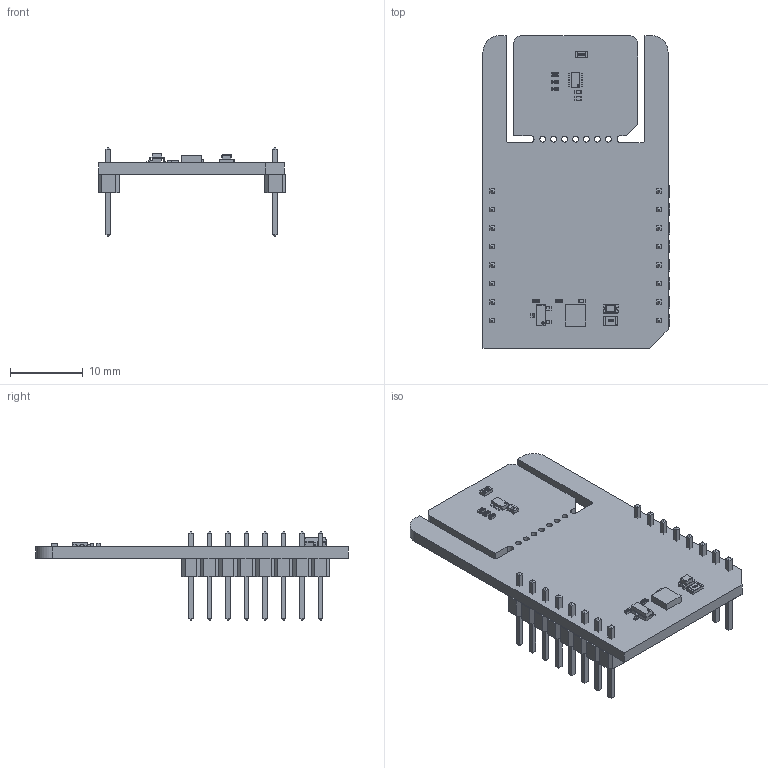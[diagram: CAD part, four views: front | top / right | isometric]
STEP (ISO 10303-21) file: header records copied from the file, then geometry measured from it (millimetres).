
FILE_DESCRIPTION(('Open CASCADE Model'),'2;1');
FILE_NAME('Open CASCADE Shape Model','2026-01-12T09:30:57',('Author'),( 'Open CASCADE'),'Open CASCADE STEP processor 6.8','Open CASCADE 6.8' ,'Unknown');
FILE_SCHEMA(('AUTOMOTIVE_DESIGN { 1 0 10303 214 1 1 1 1 }'));
Length unit declared in the file: millimetre
Products named in the file (37): PCB; Board; MBD1; Header_1x8; Free-Models; 1240637040; User_Library-PinHeaderX5-1_PinHeaderX5_Body_1; User_Library-PinHeaderX5-1_PinHeaderX5_Pins_1; R1; User_Library-R_0805; LD1; led_0805_green; R4; User_Library-R_0402; Q1; SOT23-3; U1; 1067787488; Extruded; R2; C1; User_Library-SMD_CAPACITOR0402; C2; C3; R3; R5; R6; U2; 1067787080; 1067787216; 1160814208; Cylinder; JP1; User_Library-R_0603
Assembly tree (51 placements, depth 7):
  PCB
    Board
    MBD1
      Header_1x8  x2
        PCB
          Free-Models
            1240637040  x2
              User_Library-PinHeaderX5-1_PinHeaderX5_Body_1
              User_Library-PinHeaderX5-1_PinHeaderX5_Pins_1
    R1
      User_Library-R_0805
    LD1
      led_0805_green
    R4
      User_Library-R_0402
    Q1
      SOT23-3
    U1
      1067787488
        Extruded
    R2
      User_Library-R_0402
    C1
      User_Library-SMD_CAPACITOR0402
    C2
      User_Library-SMD_CAPACITOR0402
    C3
      User_Library-SMD_CAPACITOR0402
    R3
      User_Library-R_0402
    R5
      User_Library-R_0402
    R6
      User_Library-R_0402
    U2
      1067787080  x8
        Extruded
      1067787216
        Extruded
      1160814208
        Cylinder
    JP1
      User_Library-R_0603
Bounding box: 25.78 x 42.93 x 12.19 mm (x, y, z)
Volume: 2145.7 mm3; surface area: 3866.3 mm2
Topology: 53 solids, 53 shells, 1424 faces, 3541 edges, 2254 vertices
Faces by surface type: plane 1090, bspline 217, cylinder 87, sphere 30
Full cylindrical faces by diameter (mm): 0.2 x1, 0.8 x7
Entity records: 28284 total; most frequent: CARTESIAN_POINT 10350, ORIENTED_EDGE 2994, DIRECTION 2470, EDGE_CURVE 1497, LINE 1154, VECTOR 1154, VERTEX_POINT 966, AXIS2_PLACEMENT_3D 658
